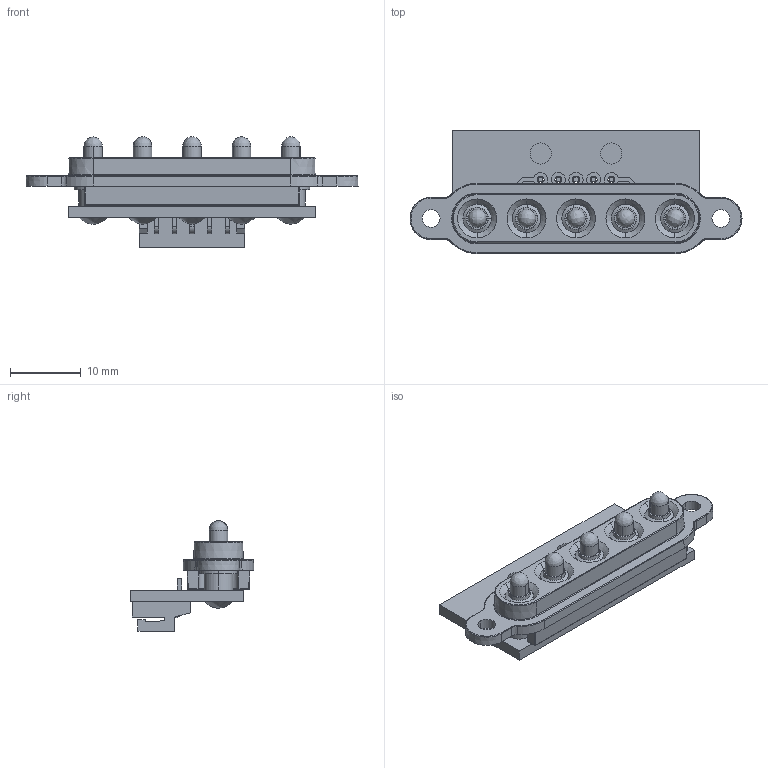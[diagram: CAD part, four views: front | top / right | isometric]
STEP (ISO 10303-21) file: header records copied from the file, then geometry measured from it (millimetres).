
FILE_DESCRIPTION (( 'STEP AP214' ), '1' );
FILE_NAME ('Swift-Dock-5PC-SC.STEP', '2021-08-06T16:12:45', ( '' ), ( '' ), 'SwSTEP 2.0', 'SolidWorks 2021', '' );
FILE_SCHEMA (( 'AUTOMOTIVE_DESIGN' ));
Length unit declared in the file: millimetre
Products named in the file (10): Coda_PD11JST_body_9; body_5 hole; PCB_5 way_assy_WITH CON_1; SD5P_Pin Array_5way_WITH CON; Swift-Dock-5PC-SC; solder spill_16; Coda_PD11JST_pin_9; PCB_5 way_1; Coda_PD11JST_assy_9; S5B-EH_1
Assembly tree (17 placements, depth 4):
  Swift-Dock-5PC-SC
    solder spill_16  x5
    SD5P_Pin Array_5way_WITH CON
      body_5 hole
      PCB_5 way_assy_WITH CON_1
        PCB_5 way_1
        S5B-EH_1
      Coda_PD11JST_assy_9  x5
        Coda_PD11JST_body_9
        Coda_PD11JST_pin_9
Bounding box: 47 x 17.5 x 15.61 mm (x, y, z)
Volume: 2785.6 mm3; surface area: 4764.1 mm2
Topology: 18 solids, 18 shells, 912 faces, 2192 edges, 1393 vertices
Faces by surface type: plane 427, cylinder 311, bspline 102, cone 72
Entity records: 33484 total; most frequent: CARTESIAN_POINT 6754, ORIENTED_EDGE 3768, DIRECTION 3604, EDGE_CURVE 1884, VECTOR 1230, LINE 1230, VERTEX_POINT 1205, AXIS2_PLACEMENT_3D 1187
